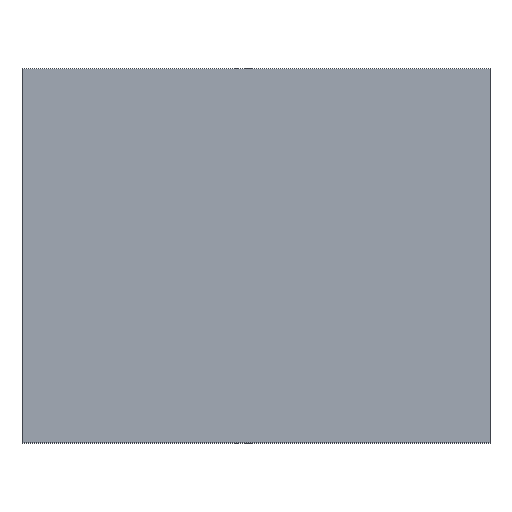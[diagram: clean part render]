
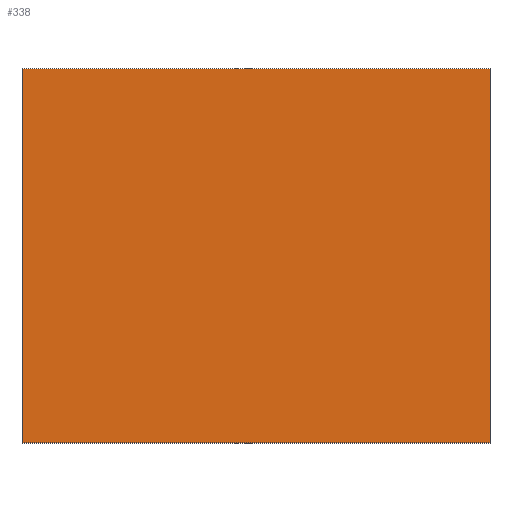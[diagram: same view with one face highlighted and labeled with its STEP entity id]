
A CAD part, top view. The second image highlights one B-rep face of the part: STEP entity #338.
In plain terms, the highlighted planar face has unit normal (0, 0, 1).
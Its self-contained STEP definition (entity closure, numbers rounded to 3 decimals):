
#24 = VERTEX_POINT('',#25);
#25 = CARTESIAN_POINT('',(0.,0.,10.));
#32 = PLANE('',#33);
#33 = AXIS2_PLACEMENT_3D('',#34,#35,#36);
#34 = CARTESIAN_POINT('',(0.,0.,0.));
#35 = DIRECTION('',(1.,0.,0.));
#36 = DIRECTION('',(0.,0.,1.));
#44 = PLANE('',#45);
#45 = AXIS2_PLACEMENT_3D('',#46,#47,#48);
#46 = CARTESIAN_POINT('',(0.,0.,0.));
#47 = DIRECTION('',(0.,1.,0.));
#48 = DIRECTION('',(0.,-0.,1.));
#85 = VERTEX_POINT('',#86);
#86 = CARTESIAN_POINT('',(0.,16.,10.));
#100 = PLANE('',#101);
#101 = AXIS2_PLACEMENT_3D('',#102,#103,#104);
#102 = CARTESIAN_POINT('',(0.,16.,0.));
#103 = DIRECTION('',(0.,1.,0.));
#104 = DIRECTION('',(0.,-0.,1.));
#112 = EDGE_CURVE('',#24,#85,#113,.T.);
#113 = SURFACE_CURVE('',#114,(#118,#125),.PCURVE_S1.);
#114 = LINE('',#115,#116);
#115 = CARTESIAN_POINT('',(0.,0.,10.));
#116 = VECTOR('',#117,1.);
#117 = DIRECTION('',(0.,1.,0.));
#118 = PCURVE('',#32,#119);
#119 = DEFINITIONAL_REPRESENTATION('',(#120),#124);
#120 = LINE('',#121,#122);
#121 = CARTESIAN_POINT('',(10.,0.));
#122 = VECTOR('',#123,1.);
#123 = DIRECTION('',(0.,-1.));
#124 = ( GEOMETRIC_REPRESENTATION_CONTEXT(2) 
PARAMETRIC_REPRESENTATION_CONTEXT() REPRESENTATION_CONTEXT('2D SPACE',''
  ) );
#125 = PCURVE('',#126,#131);
#126 = PLANE('',#127);
#127 = AXIS2_PLACEMENT_3D('',#128,#129,#130);
#128 = CARTESIAN_POINT('',(0.,0.,10.));
#129 = DIRECTION('',(0.,0.,1.));
#130 = DIRECTION('',(1.,0.,-0.));
#131 = DEFINITIONAL_REPRESENTATION('',(#132),#136);
#132 = LINE('',#133,#134);
#133 = CARTESIAN_POINT('',(0.,0.));
#134 = VECTOR('',#135,1.);
#135 = DIRECTION('',(0.,1.));
#136 = ( GEOMETRIC_REPRESENTATION_CONTEXT(2) 
PARAMETRIC_REPRESENTATION_CONTEXT() REPRESENTATION_CONTEXT('2D SPACE',''
  ) );
#144 = VERTEX_POINT('',#145);
#145 = CARTESIAN_POINT('',(20.,0.,10.));
#152 = PLANE('',#153);
#153 = AXIS2_PLACEMENT_3D('',#154,#155,#156);
#154 = CARTESIAN_POINT('',(20.,0.,0.));
#155 = DIRECTION('',(1.,0.,0.));
#156 = DIRECTION('',(0.,0.,1.));
#195 = VERTEX_POINT('',#196);
#196 = CARTESIAN_POINT('',(20.,16.,10.));
#217 = EDGE_CURVE('',#144,#195,#218,.T.);
#218 = SURFACE_CURVE('',#219,(#223,#230),.PCURVE_S1.);
#219 = LINE('',#220,#221);
#220 = CARTESIAN_POINT('',(20.,0.,10.));
#221 = VECTOR('',#222,1.);
#222 = DIRECTION('',(0.,1.,0.));
#223 = PCURVE('',#152,#224);
#224 = DEFINITIONAL_REPRESENTATION('',(#225),#229);
#225 = LINE('',#226,#227);
#226 = CARTESIAN_POINT('',(10.,0.));
#227 = VECTOR('',#228,1.);
#228 = DIRECTION('',(0.,-1.));
#229 = ( GEOMETRIC_REPRESENTATION_CONTEXT(2) 
PARAMETRIC_REPRESENTATION_CONTEXT() REPRESENTATION_CONTEXT('2D SPACE',''
  ) );
#230 = PCURVE('',#126,#231);
#231 = DEFINITIONAL_REPRESENTATION('',(#232),#236);
#232 = LINE('',#233,#234);
#233 = CARTESIAN_POINT('',(20.,0.));
#234 = VECTOR('',#235,1.);
#235 = DIRECTION('',(0.,1.));
#236 = ( GEOMETRIC_REPRESENTATION_CONTEXT(2) 
PARAMETRIC_REPRESENTATION_CONTEXT() REPRESENTATION_CONTEXT('2D SPACE',''
  ) );
#263 = EDGE_CURVE('',#24,#144,#264,.T.);
#264 = SURFACE_CURVE('',#265,(#269,#276),.PCURVE_S1.);
#265 = LINE('',#266,#267);
#266 = CARTESIAN_POINT('',(0.,0.,10.));
#267 = VECTOR('',#268,1.);
#268 = DIRECTION('',(1.,0.,0.));
#269 = PCURVE('',#44,#270);
#270 = DEFINITIONAL_REPRESENTATION('',(#271),#275);
#271 = LINE('',#272,#273);
#272 = CARTESIAN_POINT('',(10.,0.));
#273 = VECTOR('',#274,1.);
#274 = DIRECTION('',(0.,1.));
#275 = ( GEOMETRIC_REPRESENTATION_CONTEXT(2) 
PARAMETRIC_REPRESENTATION_CONTEXT() REPRESENTATION_CONTEXT('2D SPACE',''
  ) );
#276 = PCURVE('',#126,#277);
#277 = DEFINITIONAL_REPRESENTATION('',(#278),#282);
#278 = LINE('',#279,#280);
#279 = CARTESIAN_POINT('',(0.,0.));
#280 = VECTOR('',#281,1.);
#281 = DIRECTION('',(1.,0.));
#282 = ( GEOMETRIC_REPRESENTATION_CONTEXT(2) 
PARAMETRIC_REPRESENTATION_CONTEXT() REPRESENTATION_CONTEXT('2D SPACE',''
  ) );
#310 = EDGE_CURVE('',#85,#195,#311,.T.);
#311 = SURFACE_CURVE('',#312,(#316,#323),.PCURVE_S1.);
#312 = LINE('',#313,#314);
#313 = CARTESIAN_POINT('',(0.,16.,10.));
#314 = VECTOR('',#315,1.);
#315 = DIRECTION('',(1.,0.,0.));
#316 = PCURVE('',#100,#317);
#317 = DEFINITIONAL_REPRESENTATION('',(#318),#322);
#318 = LINE('',#319,#320);
#319 = CARTESIAN_POINT('',(10.,0.));
#320 = VECTOR('',#321,1.);
#321 = DIRECTION('',(0.,1.));
#322 = ( GEOMETRIC_REPRESENTATION_CONTEXT(2) 
PARAMETRIC_REPRESENTATION_CONTEXT() REPRESENTATION_CONTEXT('2D SPACE',''
  ) );
#323 = PCURVE('',#126,#324);
#324 = DEFINITIONAL_REPRESENTATION('',(#325),#329);
#325 = LINE('',#326,#327);
#326 = CARTESIAN_POINT('',(0.,16.));
#327 = VECTOR('',#328,1.);
#328 = DIRECTION('',(1.,0.));
#329 = ( GEOMETRIC_REPRESENTATION_CONTEXT(2) 
PARAMETRIC_REPRESENTATION_CONTEXT() REPRESENTATION_CONTEXT('2D SPACE',''
  ) );
#338 = ADVANCED_FACE('',(#339),#126,.T.);
#339 = FACE_BOUND('',#340,.T.);
#340 = EDGE_LOOP('',(#341,#342,#343,#344));
#341 = ORIENTED_EDGE('',*,*,#112,.F.);
#342 = ORIENTED_EDGE('',*,*,#263,.T.);
#343 = ORIENTED_EDGE('',*,*,#217,.T.);
#344 = ORIENTED_EDGE('',*,*,#310,.F.);
